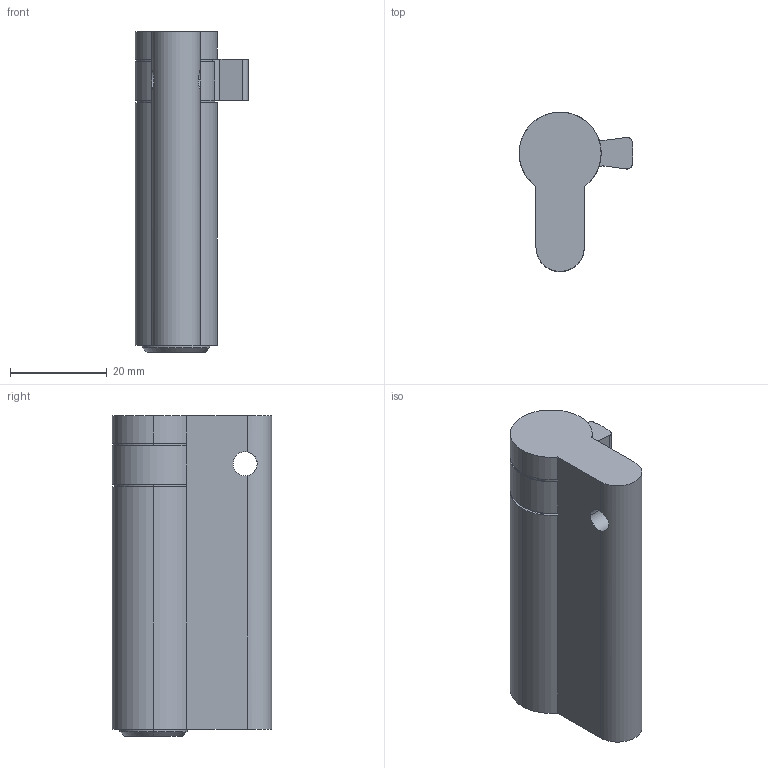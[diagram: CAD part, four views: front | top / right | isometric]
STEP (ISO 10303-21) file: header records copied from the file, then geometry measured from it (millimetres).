
FILE_DESCRIPTION (( 'STEP AP214' ), '1' );
FILE_NAME ('TPL-H-EU-511-L 29Oct2024.STEP', '2024-10-29T22:15:49', ( '' ), ( '' ), 'SwSTEP 2.0', 'SolidWorks 2023', '' );
FILE_SCHEMA (( 'AUTOMOTIVE_DESIGN' ));
Length unit declared in the file: millimetre
Products named in the file (1): TPL-H-EU-511-L 29Oct2024
Bounding box: 23.58 x 33 x 66.5 mm (x, y, z)
Volume: 24801.7 mm3; surface area: 7067.9 mm2
Topology: 1 solids, 1 shells, 45 faces, 124 edges, 78 vertices
Faces by surface type: cylinder 26, plane 16, cone 3
Entity records: 1540 total; most frequent: CARTESIAN_POINT 318, DIRECTION 271, ORIENTED_EDGE 248, EDGE_CURVE 124, AXIS2_PLACEMENT_3D 107, VERTEX_POINT 78, CIRCLE 61, VECTOR 57
